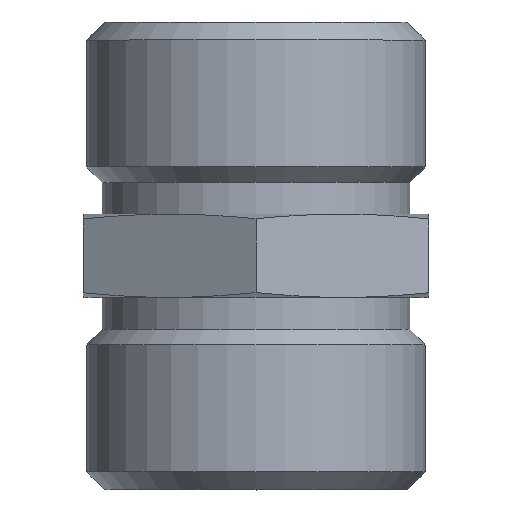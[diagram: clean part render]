
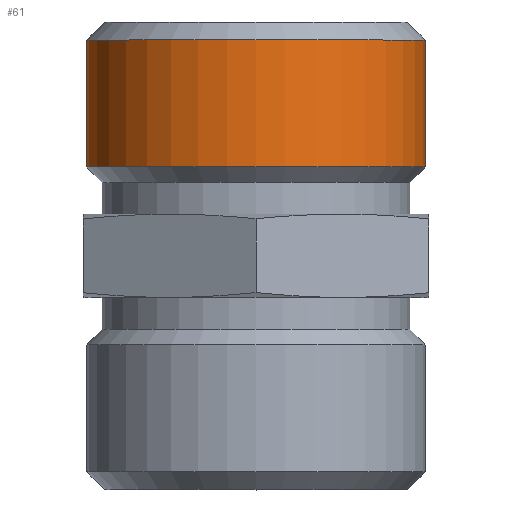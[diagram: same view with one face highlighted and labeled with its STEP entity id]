
A CAD part, top view. The second image highlights one B-rep face of the part: STEP entity #61.
In plain terms, the highlighted cylindrical face has radius 13.22 mm (diameter 26.441 mm), a full revolution.
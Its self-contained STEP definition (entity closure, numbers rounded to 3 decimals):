
#61=ADVANCED_FACE('',(#192,#194),#196,.T.);
#192=FACE_OUTER_BOUND('',#193,.T.);
#193=EDGE_LOOP('',(#982));
#194=FACE_OUTER_BOUND('',#195,.T.);
#195=EDGE_LOOP('',(#983));
#196=CYLINDRICAL_SURFACE('',#197,13.221);
#197=AXIS2_PLACEMENT_3D('',#198,#199,#200);
#198=CARTESIAN_POINT('',(0.,-18.25,0.));
#199=DIRECTION('',(0.,1.,0.));
#200=DIRECTION('',(-1.,0.,0.));
#982=ORIENTED_EDGE('',*,*,#1084,.F.);
#983=ORIENTED_EDGE('',*,*,#1086,.T.);
#1084=EDGE_CURVE('',#1143,#1143,#1144,.T.);
#1086=EDGE_CURVE('',#1147,#1147,#1148,.F.);
#1143=VERTEX_POINT('',#1251);
#1144=CIRCLE('',#1252,13.221);
#1147=VERTEX_POINT('',#1261);
#1148=CIRCLE('',#1262,13.221);
#1251=CARTESIAN_POINT('',(-13.221,16.85,0.));
#1252=AXIS2_PLACEMENT_3D('',#1253,#1254,#1255);
#1253=CARTESIAN_POINT('',(0.,16.85,0.));
#1254=DIRECTION('',(0.,1.,0.));
#1255=DIRECTION('',(-1.,0.,0.));
#1261=CARTESIAN_POINT('',(-13.221,6.95,0.));
#1262=AXIS2_PLACEMENT_3D('',#1263,#1264,#1265);
#1263=CARTESIAN_POINT('',(0.,6.95,0.));
#1264=DIRECTION('',(0.,-1.,0.));
#1265=DIRECTION('',(-1.,0.,0.));
